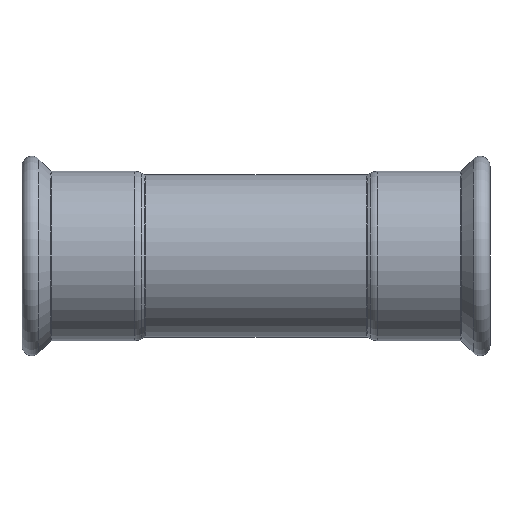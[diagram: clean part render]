
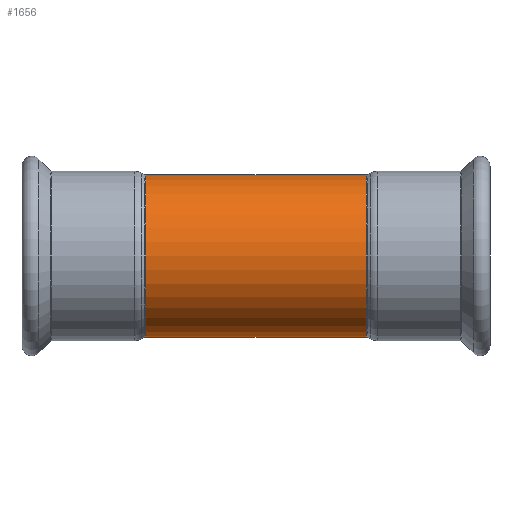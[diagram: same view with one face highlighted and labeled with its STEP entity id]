
A CAD part, front view. The second image highlights one B-rep face of the part: STEP entity #1656.
In plain terms, the highlighted cylindrical face has radius 53.5 mm (diameter 107 mm), a partial arc.
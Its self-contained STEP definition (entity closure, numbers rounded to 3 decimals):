
#17 = ORIENTED_EDGE ( 'NONE', *, *, #4405, .F. ) ;
#42 = DIRECTION ( 'NONE',  ( 0., 0., 1. ) ) ;
#71 = EDGE_CURVE ( 'NONE', #2036, #3721, #4092, .T. ) ;
#422 = CYLINDRICAL_SURFACE ( 'NONE', #3682, 53.5 ) ;
#1089 = VERTEX_POINT ( 'NONE', #1284 ) ;
#1090 = DIRECTION ( 'NONE',  ( -1., 0., 0. ) ) ;
#1110 = EDGE_CURVE ( 'NONE', #1089, #1213, #4560, .T. ) ;
#1213 = VERTEX_POINT ( 'NONE', #2034 ) ;
#1284 = CARTESIAN_POINT ( 'NONE',  ( 72.868, 0., -53.5 ) ) ;
#1305 = AXIS2_PLACEMENT_3D ( 'NONE', #4301, #1487, #42 ) ;
#1487 = DIRECTION ( 'NONE',  ( -1., 0., 0. ) ) ;
#1495 = EDGE_LOOP ( 'NONE', ( #3781, #1852, #2094, #17 ) ) ;
#1656 = ADVANCED_FACE ( 'NONE', ( #2408 ), #422, .T. ) ;
#1837 = CARTESIAN_POINT ( 'NONE',  ( 27.146, 0., 0. ) ) ;
#1852 = ORIENTED_EDGE ( 'NONE', *, *, #3291, .T. ) ;
#1855 = DIRECTION ( 'NONE',  ( -1., 0., 0. ) ) ;
#1912 = VECTOR ( 'NONE', #2410, 1000. ) ;
#1991 = CARTESIAN_POINT ( 'NONE',  ( 27.146, 0., -53.5 ) ) ;
#2034 = CARTESIAN_POINT ( 'NONE',  ( -72.868, 0., -53.5 ) ) ;
#2036 = VERTEX_POINT ( 'NONE', #3060 ) ;
#2094 = ORIENTED_EDGE ( 'NONE', *, *, #71, .T. ) ;
#2109 = CARTESIAN_POINT ( 'NONE',  ( -72.868, 0., 53.5 ) ) ;
#2122 = CIRCLE ( 'NONE', #1305, 53.5 ) ;
#2135 = AXIS2_PLACEMENT_3D ( 'NONE', #3200, #1090, #2512 ) ;
#2408 = FACE_OUTER_BOUND ( 'NONE', #1495, .T. ) ;
#2410 = DIRECTION ( 'NONE',  ( -1., 0., 0. ) ) ;
#2512 = DIRECTION ( 'NONE',  ( 0., 0., 1. ) ) ;
#3060 = CARTESIAN_POINT ( 'NONE',  ( 72.868, 0., 53.5 ) ) ;
#3200 = CARTESIAN_POINT ( 'NONE',  ( -72.868, 0., 0. ) ) ;
#3254 = DIRECTION ( 'NONE',  ( 0., 0., 1. ) ) ;
#3291 = EDGE_CURVE ( 'NONE', #1089, #2036, #2122, .T. ) ;
#3534 = VECTOR ( 'NONE', #4315, 1000. ) ;
#3682 = AXIS2_PLACEMENT_3D ( 'NONE', #1837, #1855, #3254 ) ;
#3705 = CIRCLE ( 'NONE', #2135, 53.5 ) ;
#3721 = VERTEX_POINT ( 'NONE', #2109 ) ;
#3781 = ORIENTED_EDGE ( 'NONE', *, *, #1110, .F. ) ;
#3920 = CARTESIAN_POINT ( 'NONE',  ( 27.146, 0., 53.5 ) ) ;
#4092 = LINE ( 'NONE', #3920, #3534 ) ;
#4301 = CARTESIAN_POINT ( 'NONE',  ( 72.868, 0., 0. ) ) ;
#4315 = DIRECTION ( 'NONE',  ( -1., 0., 0. ) ) ;
#4405 = EDGE_CURVE ( 'NONE', #1213, #3721, #3705, .T. ) ;
#4560 = LINE ( 'NONE', #1991, #1912 ) ;
